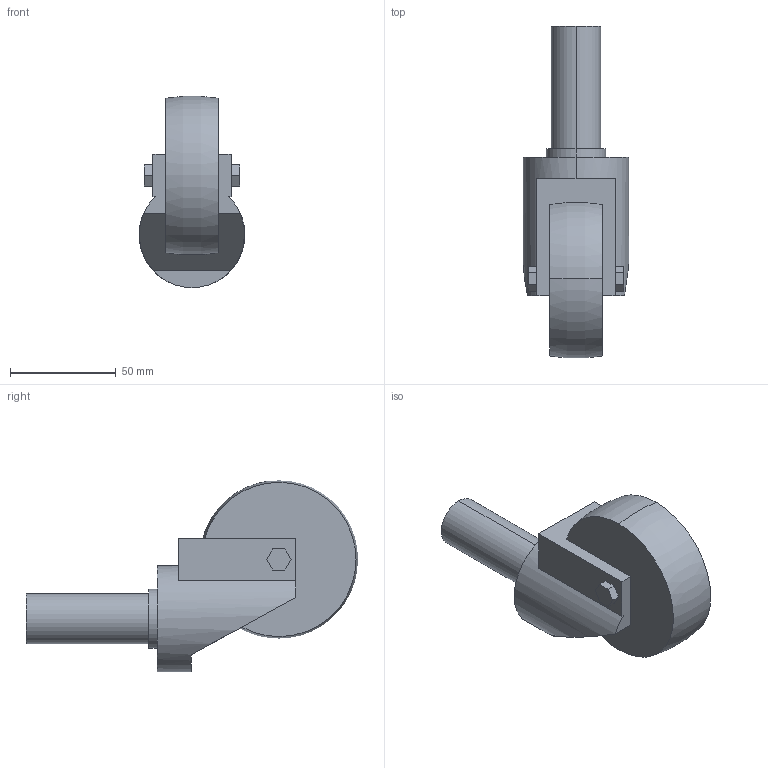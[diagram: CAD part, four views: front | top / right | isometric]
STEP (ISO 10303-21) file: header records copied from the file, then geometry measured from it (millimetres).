
FILE_DESCRIPTION (( 'STEP AP214' ), '1' );
FILE_NAME ('SUS-75N.step', '2024-02-15T04:32:29', ( 'catia' ), ( 'HP Inc.' ), 'SwSTEP 2.0', 'SolidWorks 2021', '' );
FILE_SCHEMA (( 'AUTOMOTIVE_DESIGN' ));
Length unit declared in the file: millimetre
Products named in the file (1): SUS-75N
Bounding box: 50 x 156.88 x 90.38 mm (x, y, z)
Volume: 218174.1 mm3; surface area: 27816.3 mm2
Topology: 1 solids, 1 shells, 38 faces, 96 edges, 64 vertices
Faces by surface type: plane 29, cylinder 6, torus 3
Entity records: 1196 total; most frequent: CARTESIAN_POINT 227, DIRECTION 194, ORIENTED_EDGE 192, EDGE_CURVE 96, LINE 68, VECTOR 68, VERTEX_POINT 64, AXIS2_PLACEMENT_3D 63
